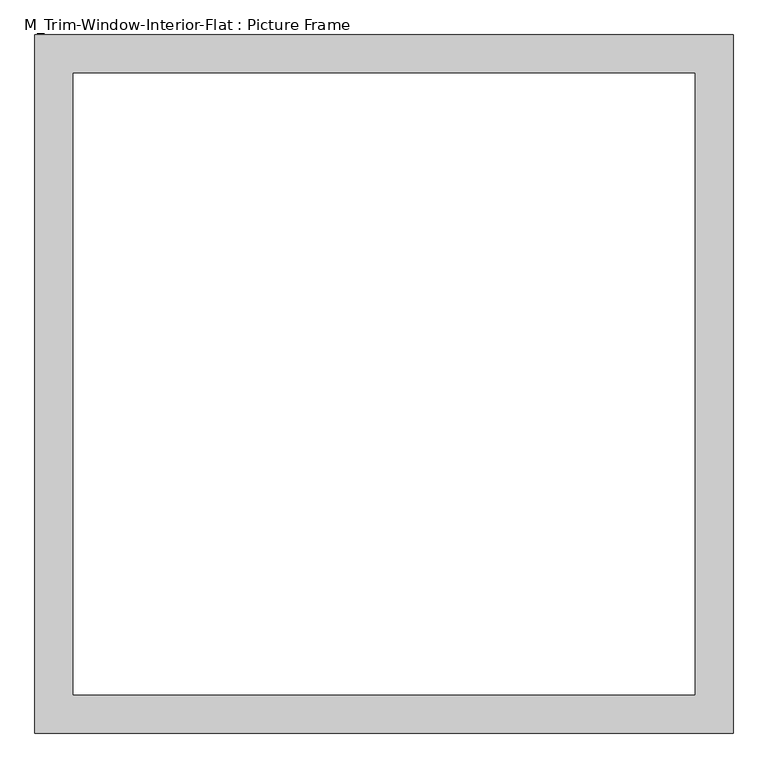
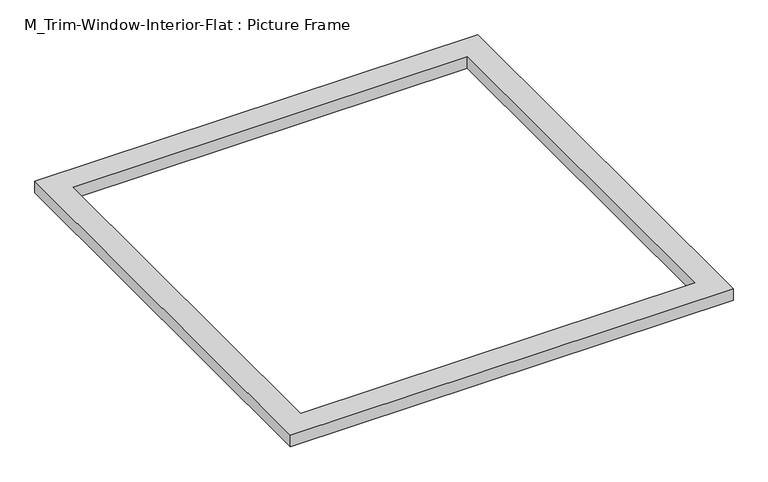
"""IFC4 building model written with IfcOpenShell, lengths in millimetres: proxy geometry, M_Trim-Window-Interior-Flat : Picture Frame."""

from ifc_helpers import new_model, si_unit, origin, origin_with_axes, place, context, project, spatial, polyline, outline, extrude, source, transform, mapped, element, save


def m_trim_window_interior_flat_picture_frame_fc7df726(model_context):
    return source(origin(), model_context, "Body", "SweptSolid", [
        extrude(outline(polyline([(547.3, 47.3), (547.3, -1047.3), (-547.3, -1047.3), (-547.3, 47.3), (547.3, 47.3)]), holes=[polyline([(487.3, -12.7), (-487.3, -12.7), (-487.3, -987.3), (487.3, -987.3), (487.3, -12.7)])]), origin_with_axes(), (0.0, 0.0, 1.0), 30.0),
    ])


if __name__ == "__main__":
    model = new_model("IFC4")
    model_context = context("Model", 3, world=origin())
    ifc_project = project(units=[si_unit("LENGTHUNIT", "METRE", prefix="MILLI")], contexts=[model_context])
    site = spatial("IfcSite", under=ifc_project)
    building = spatial("IfcBuilding", under=site)
    placement = place(None, origin())
    m_trim_window_interior_flat_picture_frame_shape = m_trim_window_interior_flat_picture_frame_fc7df726(model_context)
    element("IfcBuildingElementProxy", 1, Name="M_Trim-Window-Interior-Flat : Picture Frame", ObjectType="M_Trim-Window-Interior-Flat : Picture Frame", at=placement, inside=building, context=model_context, shape_type="MappedRepresentation", body=[
        mapped(m_trim_window_interior_flat_picture_frame_shape, transform((0.0, 0.0, 0.0), x_axis=(1.0, 0.0, 0.0), y_axis=(0.0, 1.0, 0.0), z_axis=(0.0, 0.0, 1.0))),
    ])
    save(model, "model.ifc")
